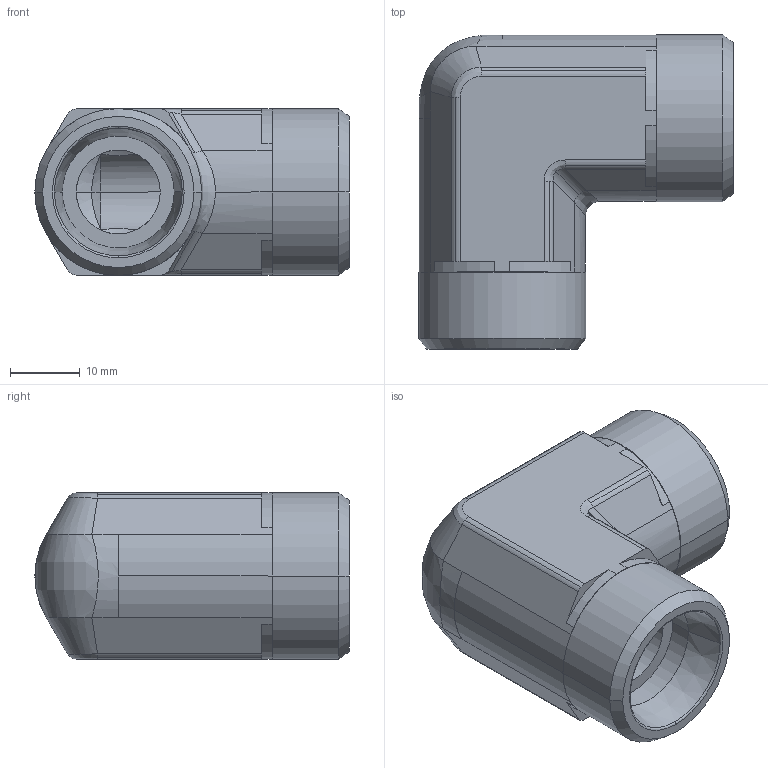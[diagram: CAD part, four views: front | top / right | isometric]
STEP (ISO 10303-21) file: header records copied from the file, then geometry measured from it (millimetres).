
FILE_DESCRIPTION((''),'2;1');
FILE_NAME('103819.stp','2007-10-31T11:51:57',(''),(''),'AutoCAD STEP 2000i','AutoCAD 2000i',', , ');
FILE_SCHEMA(('CONFIG_CONTROL_DESIGN'));
Length unit declared in the file: millimetre
Products named in the file (2): 103819.0; 3090#0
Assembly tree (1 placements, depth 2):
  103819.0
    3090#0
Bounding box: 44.92 x 44.92 x 23.85 mm (x, y, z)
Volume: 20913.6 mm3; surface area: 8243.1 mm2
Topology: 1 solids, 1 shells, 120 faces, 282 edges, 166 vertices
Faces by surface type: cylinder 52, plane 34, cone 20, bspline 14
Entity records: 4311 total; most frequent: CARTESIAN_POINT 1430, DIRECTION 622, ORIENTED_EDGE 564, EDGE_CURVE 282, AXIS2_PLACEMENT_3D 250, VERTEX_POINT 166, CIRCLE 124, EDGE_LOOP 124
